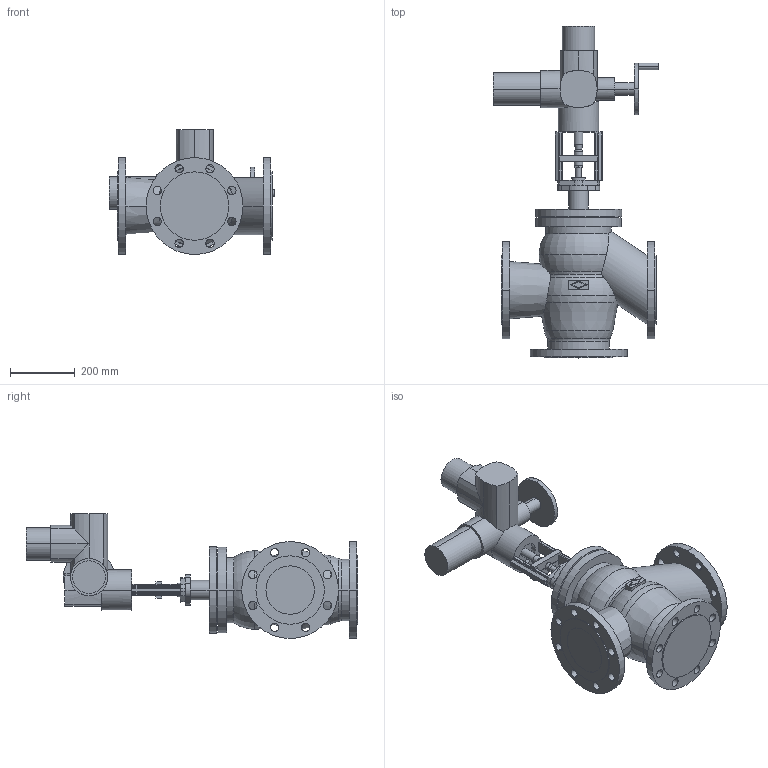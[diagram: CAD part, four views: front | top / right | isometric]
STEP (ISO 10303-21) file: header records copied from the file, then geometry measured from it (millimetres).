
FILE_DESCRIPTION(('OneSpaceDesigner STEP Export'),'2;1');
FILE_NAME('c000003175.stp','2007-01-24T10:45:44',(''),(''),'OneSpace Designer STEP processor for AP214 (Solid Model)','OneSpace Designer 14.00B 27-May-2006 (C) CoCreate Software GmbH','');
FILE_SCHEMA(('AUTOMOTIVE_DESIGN { 1 0 10303 214 1 1 1 1 }'));
Length unit declared in the file: millimetre
Products named in the file (2): 1; 2
Bounding box: 514 x 1028 x 387 mm (x, y, z)
Volume: 37537238.6 mm3; surface area: 1451998.3 mm2
Topology: 2 solids, 2 shells, 318 faces, 814 edges, 518 vertices
Faces by surface type: cylinder 160, plane 134, torus 16, cone 8
Entity records: 9238 total; most frequent: CARTESIAN_POINT 2042, ORIENTED_EDGE 1628, DIRECTION 1320, EDGE_CURVE 814, VERTEX_POINT 518, AXIS2_PLACEMENT_3D 460, VECTOR 400, LINE 400
